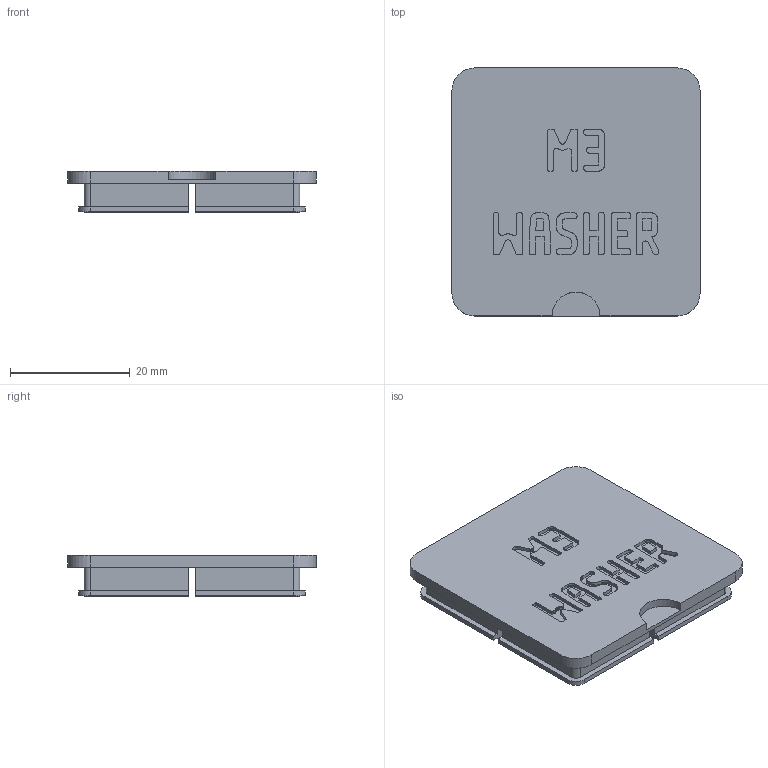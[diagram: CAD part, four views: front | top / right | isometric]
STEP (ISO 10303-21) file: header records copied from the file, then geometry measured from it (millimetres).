
FILE_DESCRIPTION(('Open CASCADE Model'),'2;1');
FILE_NAME('Open CASCADE Shape Model','2026-11-03T17:10:38',('Author'),( 'Open CASCADE'),'Open CASCADE STEP processor 8.0','build123d', 'Unknown');
FILE_SCHEMA(('AUTOMOTIVE_DESIGN { 1 0 10303 214 1 1 1 1 }'));
Products named in the file (1): COMPOUND
Bounding box: 41.5 x 41.5 x 6.9 mm (x, y, z)
Volume: 4192.7 mm3; surface area: 5525.1 mm2
Topology: 1 solids, 1 shells, 947 faces, 2802 edges, 1868 vertices
Faces by surface type: plane 926, cylinder 21
Entity records: 67366 total; most frequent: CARTESIAN_POINT 11578, DIRECTION 10148, LINE 8158, VECTOR 8158, ORIENTED_EDGE 5604, PCURVE 5604, DEFINITIONAL_REPRESENTATION 5604, EDGE_CURVE 2802
